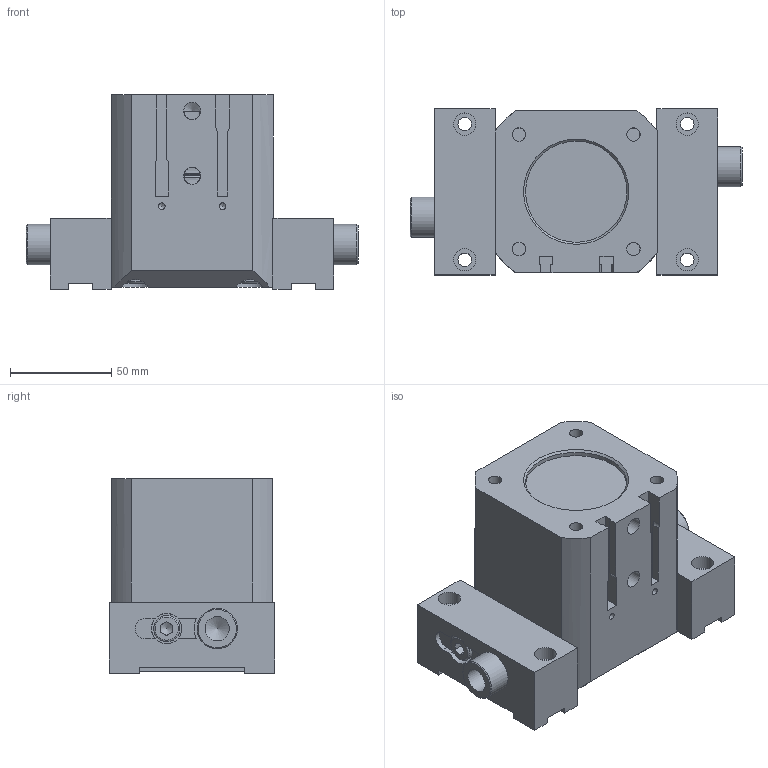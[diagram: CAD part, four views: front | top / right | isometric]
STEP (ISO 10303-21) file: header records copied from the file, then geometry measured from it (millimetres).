
FILE_DESCRIPTION((''),'2;1');
FILE_NAME('T:\CAD\Standard\Daten\3D-Datenbank\GP\4 - 3D-CAD-Daten GP 050-125\GP100\step-Daten\G-GP100-l1-GÖ+UB closed.stp','2013-11-07T11:31:55',('Dirk'),(''),'Autodesk Inventor 2011','Autodesk Inventor 2011','');
FILE_SCHEMA(('AUTOMOTIVE_DESIGN { 1 0 10303 214 1 1 1 1 }'));
Length unit declared in the file: millimetre
Products named in the file (1): Bauteil43
Bounding box: 164.02 x 82 x 96 mm (x, y, z)
Volume: 708322.4 mm3; surface area: 134941.2 mm2
Topology: 20 solids, 20 shells, 438 faces, 1106 edges, 708 vertices
Faces by surface type: plane 238, cylinder 123, cone 40, torus 24, bspline 13
Full cylindrical faces by diameter (mm): 3.242 x2, 6.647 x10, 8 x6, 8.2 x4, 8.376 x1, 8.566 x2, 9 x2, 10 x1, 11 x6, 12 x2, 13 x6, 15 x8, 20 x5, 22 x5, 23 x2, 24 x1, 28.4 x2, 33 x1, 45 x1, 48 x1, 50 x1, 52 x2, 54.2 x1, 61.1 x2, 62 x1, 64 x5
Entity records: 14529 total; most frequent: CARTESIAN_POINT 4386, DIRECTION 1959, ORIENTED_EDGE 1784, EDGE_CURVE 892, AXIS2_PLACEMENT_3D 753, EDGE_LOOP 657, VERTEX_POINT 639, VECTOR 453
